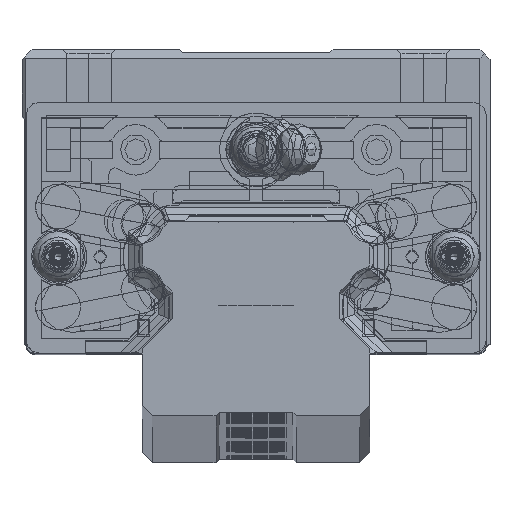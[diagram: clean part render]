
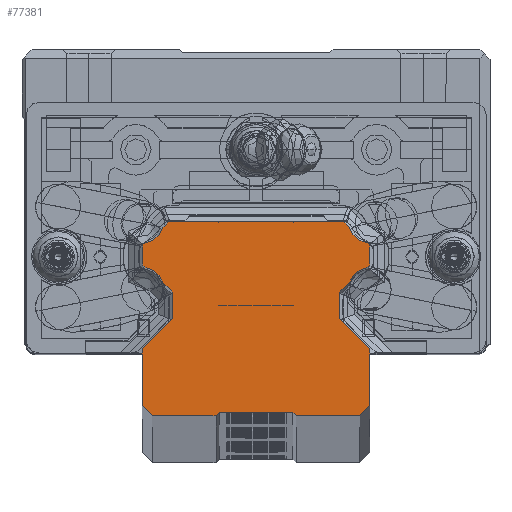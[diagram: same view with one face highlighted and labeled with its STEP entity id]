
A CAD part, top view. The second image highlights one B-rep face of the part: STEP entity #77381.
In plain terms, the highlighted planar face has unit normal (0, 0, 1).
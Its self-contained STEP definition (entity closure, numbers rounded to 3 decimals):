
#71328=DIRECTION('',(0.,-1.,0.));
#71329=VECTOR('',#71328,4.);
#71330=CARTESIAN_POINT('',(-12.5,-5.5,500.));
#71331=LINE('',#71330,#71329);
#71340=DIRECTION('',(0.,-1.,0.));
#71341=VECTOR('',#71340,8.5);
#71342=CARTESIAN_POINT('',(-17.,-14.,500.));
#71343=LINE('',#71342,#71341);
#71352=DIRECTION('',(1.,0.,0.));
#71353=VECTOR('',#71352,9.5);
#71354=CARTESIAN_POINT('',(-15.5,-24.,500.));
#71355=LINE('',#71354,#71353);
#72852=DIRECTION('',(0.,-1.,0.));
#72853=VECTOR('',#72852,2.452);
#72854=CARTESIAN_POINT('',(-17.,1.226,500.));
#72855=LINE('',#72854,#72853);
#72988=DIRECTION('',(1.,0.,0.));
#72989=VECTOR('',#72988,9.5);
#72990=CARTESIAN_POINT('',(6.,-24.,500.));
#72991=LINE('',#72990,#72989);
#73000=DIRECTION('',(0.,1.,0.));
#73001=VECTOR('',#73000,8.5);
#73002=CARTESIAN_POINT('',(17.,-22.5,500.));
#73003=LINE('',#73002,#73001);
#73012=DIRECTION('',(0.,1.,0.));
#73013=VECTOR('',#73012,4.);
#73014=CARTESIAN_POINT('',(12.5,-9.5,500.));
#73015=LINE('',#73014,#73013);
#73032=DIRECTION('',(0.,1.,0.));
#73033=VECTOR('',#73032,2.452);
#73034=CARTESIAN_POINT('',(17.,-1.226,500.));
#73035=LINE('',#73034,#73033);
#73048=CARTESIAN_POINT('',(-17.018,-5.018,500.));
#73049=DIRECTION('',(0.,0.,1.));
#73050=DIRECTION('',(0.951,0.31,0.));
#73051=AXIS2_PLACEMENT_3D('',#73048,#73049,#73050);
#73053=CARTESIAN_POINT('',(-16.35,-1.226,500.));
#73054=DIRECTION('',(0.,0.,-1.));
#73055=DIRECTION('',(-0.173,-0.985,0.));
#73056=AXIS2_PLACEMENT_3D('',#73053,#73054,#73055);
#73058=CARTESIAN_POINT('',(-16.35,1.226,500.));
#73059=DIRECTION('',(0.,0.,-1.));
#73060=DIRECTION('',(-1.,0.,0.));
#73061=AXIS2_PLACEMENT_3D('',#73058,#73059,#73060);
#73063=CARTESIAN_POINT('',(-17.018,5.018,500.));
#73064=DIRECTION('',(0.,0.,1.));
#73065=DIRECTION('',(0.173,-0.985,0.));
#73066=AXIS2_PLACEMENT_3D('',#73063,#73064,#73065);
#73068=DIRECTION('',(0.707,0.707,0.));
#73069=VECTOR('',#73068,1.158);
#73070=CARTESIAN_POINT('',(-13.929,4.181,500.));
#73071=LINE('',#73070,#73069);
#73072=DIRECTION('',(1.,0.,0.));
#73073=VECTOR('',#73072,26.22);
#73074=CARTESIAN_POINT('',(-13.11,5.,500.));
#73075=LINE('',#73074,#73073);
#73076=DIRECTION('',(0.707,-0.707,0.));
#73077=VECTOR('',#73076,1.158);
#73078=CARTESIAN_POINT('',(13.11,5.,500.));
#73079=LINE('',#73078,#73077);
#73080=CARTESIAN_POINT('',(17.018,5.018,500.));
#73081=DIRECTION('',(0.,0.,1.));
#73082=DIRECTION('',(-0.965,-0.261,0.));
#73083=AXIS2_PLACEMENT_3D('',#73080,#73081,#73082);
#73085=CARTESIAN_POINT('',(16.35,1.226,500.));
#73086=DIRECTION('',(0.,0.,-1.));
#73087=DIRECTION('',(0.173,0.985,0.));
#73088=AXIS2_PLACEMENT_3D('',#73085,#73086,#73087);
#73090=CARTESIAN_POINT('',(16.35,-1.226,500.));
#73091=DIRECTION('',(0.,0.,-1.));
#73092=DIRECTION('',(1.,0.,0.));
#73093=AXIS2_PLACEMENT_3D('',#73090,#73091,#73092);
#73095=CARTESIAN_POINT('',(17.018,-5.018,500.));
#73096=DIRECTION('',(0.,0.,1.));
#73097=DIRECTION('',(-0.173,0.985,0.));
#73098=AXIS2_PLACEMENT_3D('',#73095,#73096,#73097);
#73100=DIRECTION('',(-0.707,-0.707,0.));
#73101=VECTOR('',#73100,2.087);
#73102=CARTESIAN_POINT('',(13.976,-4.024,500.));
#73103=LINE('',#73102,#73101);
#73104=DIRECTION('',(0.707,-0.707,0.));
#73105=VECTOR('',#73104,6.364);
#73106=CARTESIAN_POINT('',(12.5,-9.5,500.));
#73107=LINE('',#73106,#73105);
#73108=DIRECTION('',(-0.707,-0.707,0.));
#73109=VECTOR('',#73108,2.121);
#73110=CARTESIAN_POINT('',(17.,-22.5,500.));
#73111=LINE('',#73110,#73109);
#73112=DIRECTION('',(-0.707,0.707,0.));
#73113=VECTOR('',#73112,0.707);
#73114=CARTESIAN_POINT('',(6.,-24.,500.));
#73115=LINE('',#73114,#73113);
#73116=DIRECTION('',(-1.,0.,0.));
#73117=VECTOR('',#73116,11.);
#73118=CARTESIAN_POINT('',(5.5,-23.5,500.));
#73119=LINE('',#73118,#73117);
#73120=DIRECTION('',(-0.707,-0.707,0.));
#73121=VECTOR('',#73120,0.707);
#73122=CARTESIAN_POINT('',(-5.5,-23.5,500.));
#73123=LINE('',#73122,#73121);
#73124=DIRECTION('',(-0.707,0.707,0.));
#73125=VECTOR('',#73124,2.121);
#73126=CARTESIAN_POINT('',(-15.5,-24.,500.));
#73127=LINE('',#73126,#73125);
#73128=DIRECTION('',(0.707,0.707,0.));
#73129=VECTOR('',#73128,6.364);
#73130=CARTESIAN_POINT('',(-17.,-14.,500.));
#73131=LINE('',#73130,#73129);
#73132=DIRECTION('',(-0.707,0.707,0.));
#73133=VECTOR('',#73132,2.087);
#73134=CARTESIAN_POINT('',(-12.5,-5.5,500.));
#73135=LINE('',#73134,#73133);
#74468=CARTESIAN_POINT('',(-13.976,-4.024,500.));
#74469=CARTESIAN_POINT('',(-16.463,-1.866,500.));
#74470=VERTEX_POINT('',#74468);
#74471=VERTEX_POINT('',#74469);
#74472=CARTESIAN_POINT('',(-17.,-1.226,500.));
#74473=VERTEX_POINT('',#74472);
#74474=CARTESIAN_POINT('',(-17.,1.226,500.));
#74475=VERTEX_POINT('',#74474);
#74476=CARTESIAN_POINT('',(-16.463,1.866,500.));
#74477=VERTEX_POINT('',#74476);
#74478=CARTESIAN_POINT('',(-13.929,4.181,500.));
#74479=VERTEX_POINT('',#74478);
#74480=CARTESIAN_POINT('',(-13.11,5.,500.));
#74481=VERTEX_POINT('',#74480);
#74482=CARTESIAN_POINT('',(13.11,5.,500.));
#74483=VERTEX_POINT('',#74482);
#74536=CARTESIAN_POINT('',(13.929,4.181,500.));
#74537=VERTEX_POINT('',#74536);
#74538=CARTESIAN_POINT('',(16.463,1.866,500.));
#74539=VERTEX_POINT('',#74538);
#74540=CARTESIAN_POINT('',(17.,1.226,500.));
#74541=VERTEX_POINT('',#74540);
#74542=CARTESIAN_POINT('',(17.,-1.226,500.));
#74543=VERTEX_POINT('',#74542);
#74544=CARTESIAN_POINT('',(16.463,-1.866,500.));
#74545=VERTEX_POINT('',#74544);
#74546=CARTESIAN_POINT('',(13.976,-4.024,500.));
#74547=VERTEX_POINT('',#74546);
#74548=CARTESIAN_POINT('',(12.5,-5.5,500.));
#74549=VERTEX_POINT('',#74548);
#74550=CARTESIAN_POINT('',(12.5,-9.5,500.));
#74551=VERTEX_POINT('',#74550);
#74552=CARTESIAN_POINT('',(17.,-14.,500.));
#74553=VERTEX_POINT('',#74552);
#74554=CARTESIAN_POINT('',(17.,-22.5,500.));
#74555=VERTEX_POINT('',#74554);
#74556=CARTESIAN_POINT('',(15.5,-24.,500.));
#74557=VERTEX_POINT('',#74556);
#74558=CARTESIAN_POINT('',(6.,-24.,500.));
#74559=VERTEX_POINT('',#74558);
#74560=CARTESIAN_POINT('',(5.5,-23.5,500.));
#74561=VERTEX_POINT('',#74560);
#74562=CARTESIAN_POINT('',(-5.5,-23.5,500.));
#74563=VERTEX_POINT('',#74562);
#74616=CARTESIAN_POINT('',(-6.,-24.,500.));
#74617=VERTEX_POINT('',#74616);
#74618=CARTESIAN_POINT('',(-15.5,-24.,500.));
#74619=VERTEX_POINT('',#74618);
#74620=CARTESIAN_POINT('',(-17.,-22.5,500.));
#74621=VERTEX_POINT('',#74620);
#74622=CARTESIAN_POINT('',(-17.,-14.,500.));
#74623=VERTEX_POINT('',#74622);
#74624=CARTESIAN_POINT('',(-12.5,-9.5,500.));
#74625=VERTEX_POINT('',#74624);
#74626=CARTESIAN_POINT('',(-12.5,-5.5,500.));
#74627=VERTEX_POINT('',#74626);
#77346=CARTESIAN_POINT('',(0.,0.,500.));
#77347=DIRECTION('',(0.,0.,1.));
#77348=DIRECTION('',(1.,0.,0.));
#77349=AXIS2_PLACEMENT_3D('',#77346,#77347,#77348);
#77350=PLANE('',#77349);
#77351=ORIENTED_EDGE('',*,*,#75391,.T.);
#77352=ORIENTED_EDGE('',*,*,#77111,.T.);
#77353=ORIENTED_EDGE('',*,*,#77097,.F.);
#77354=ORIENTED_EDGE('',*,*,#77082,.T.);
#77355=ORIENTED_EDGE('',*,*,#77067,.T.);
#77356=ORIENTED_EDGE('',*,*,#77052,.T.);
#77357=ORIENTED_EDGE('',*,*,#75886,.T.);
#77358=ORIENTED_EDGE('',*,*,#77341,.T.);
#77359=ORIENTED_EDGE('',*,*,#77328,.T.);
#77360=ORIENTED_EDGE('',*,*,#77314,.T.);
#77361=ORIENTED_EDGE('',*,*,#77300,.F.);
#77362=ORIENTED_EDGE('',*,*,#77286,.T.);
#77363=ORIENTED_EDGE('',*,*,#77272,.T.);
#77364=ORIENTED_EDGE('',*,*,#77258,.T.);
#77365=ORIENTED_EDGE('',*,*,#77244,.F.);
#77366=ORIENTED_EDGE('',*,*,#77230,.T.);
#77367=ORIENTED_EDGE('',*,*,#77216,.F.);
#77368=ORIENTED_EDGE('',*,*,#77202,.T.);
#77369=ORIENTED_EDGE('',*,*,#77188,.F.);
#77370=ORIENTED_EDGE('',*,*,#77174,.T.);
#77371=ORIENTED_EDGE('',*,*,#75511,.T.);
#77372=ORIENTED_EDGE('',*,*,#75496,.T.);
#77373=ORIENTED_EDGE('',*,*,#75481,.F.);
#77374=ORIENTED_EDGE('',*,*,#75466,.T.);
#77375=ORIENTED_EDGE('',*,*,#75451,.F.);
#77376=ORIENTED_EDGE('',*,*,#75436,.T.);
#77377=ORIENTED_EDGE('',*,*,#75421,.F.);
#77378=ORIENTED_EDGE('',*,*,#75406,.T.);
#77379=EDGE_LOOP('',(#77351,#77352,#77353,#77354,#77355,#77356,#77357,#77358,
#77359,#77360,#77361,#77362,#77363,#77364,#77365,#77366,#77367,#77368,#77369,
#77370,#77371,#77372,#77373,#77374,#77375,#77376,#77377,#77378));
#77380=FACE_OUTER_BOUND('',#77379,.F.);
#77381=ADVANCED_FACE('',(#77380),#77350,.T.);
#73052=CIRCLE('',#73051,3.2);
#73057=CIRCLE('',#73056,0.65);
#73062=CIRCLE('',#73061,0.65);
#73067=CIRCLE('',#73066,3.2);
#73084=CIRCLE('',#73083,3.2);
#73089=CIRCLE('',#73088,0.65);
#73094=CIRCLE('',#73093,0.65);
#73099=CIRCLE('',#73098,3.2);
#75391=EDGE_CURVE('',#74470,#74471,#73052,.T.);
#75406=EDGE_CURVE('',#74627,#74470,#73135,.T.);
#75421=EDGE_CURVE('',#74627,#74625,#71331,.T.);
#75436=EDGE_CURVE('',#74623,#74625,#73131,.T.);
#75451=EDGE_CURVE('',#74623,#74621,#71343,.T.);
#75466=EDGE_CURVE('',#74619,#74621,#73127,.T.);
#75481=EDGE_CURVE('',#74619,#74617,#71355,.T.);
#75496=EDGE_CURVE('',#74563,#74617,#73123,.T.);
#75511=EDGE_CURVE('',#74561,#74563,#73119,.T.);
#75886=EDGE_CURVE('',#74481,#74483,#73075,.T.);
#77052=EDGE_CURVE('',#74479,#74481,#73071,.T.);
#77067=EDGE_CURVE('',#74477,#74479,#73067,.T.);
#77082=EDGE_CURVE('',#74475,#74477,#73062,.T.);
#77097=EDGE_CURVE('',#74475,#74473,#72855,.T.);
#77111=EDGE_CURVE('',#74471,#74473,#73057,.T.);
#77174=EDGE_CURVE('',#74559,#74561,#73115,.T.);
#77188=EDGE_CURVE('',#74559,#74557,#72991,.T.);
#77202=EDGE_CURVE('',#74555,#74557,#73111,.T.);
#77216=EDGE_CURVE('',#74555,#74553,#73003,.T.);
#77230=EDGE_CURVE('',#74551,#74553,#73107,.T.);
#77244=EDGE_CURVE('',#74551,#74549,#73015,.T.);
#77258=EDGE_CURVE('',#74547,#74549,#73103,.T.);
#77272=EDGE_CURVE('',#74545,#74547,#73099,.T.);
#77286=EDGE_CURVE('',#74543,#74545,#73094,.T.);
#77300=EDGE_CURVE('',#74543,#74541,#73035,.T.);
#77314=EDGE_CURVE('',#74539,#74541,#73089,.T.);
#77328=EDGE_CURVE('',#74537,#74539,#73084,.T.);
#77341=EDGE_CURVE('',#74483,#74537,#73079,.T.);
